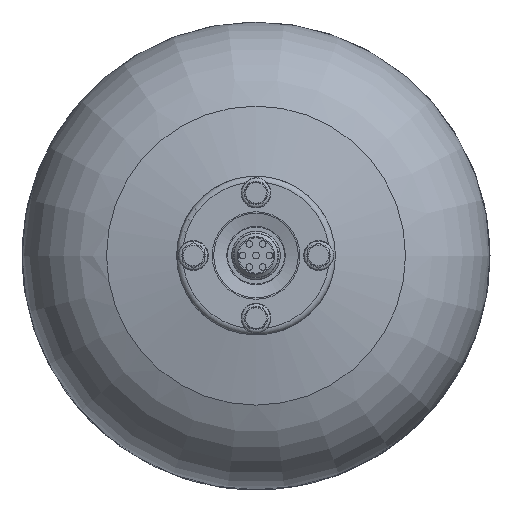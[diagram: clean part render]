
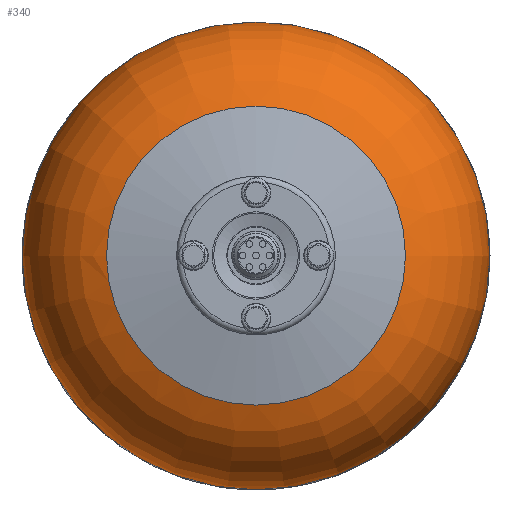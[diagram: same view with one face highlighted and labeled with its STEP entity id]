
A CAD part, top view. The second image highlights one B-rep face of the part: STEP entity #340.
In plain terms, the highlighted toroidal (fillet/blend) face has major radius 70 mm and minor radius 70 mm.
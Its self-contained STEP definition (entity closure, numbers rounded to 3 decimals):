
#340=ADVANCED_FACE('',(#2011,#2013),#2015,.T.);
#2011=FACE_BOUND('',#2012,.T.);
#2012=EDGE_LOOP('',(#4526,#4527));
#2013=FACE_OUTER_BOUND('',#2014,.T.);
#2014=EDGE_LOOP('',(#4528));
#2015=DEGENERATE_TOROIDAL_SURFACE('',#2016,70.,70.,.T.);
#2016=AXIS2_PLACEMENT_3D('',#2017,#2018,#2019);
#2017=CARTESIAN_POINT('',(0.,0.,42.896));
#2018=DIRECTION('',(0.,0.,1.));
#2019=DIRECTION('',(1.,0.,0.));
#4526=ORIENTED_EDGE('',*,*,#6668,.T.);
#4527=ORIENTED_EDGE('',*,*,#6669,.T.);
#4528=ORIENTED_EDGE('',*,*,#6670,.F.);
#6668=EDGE_CURVE('',#7249,#7250,#7251,.T.);
#6669=EDGE_CURVE('',#7250,#7249,#7252,.T.);
#6670=EDGE_CURVE('',#7253,#7253,#7254,.T.);
#7249=VERTEX_POINT('',#8672);
#7250=VERTEX_POINT('',#8673);
#7251=CIRCLE('',#8674,140.);
#7252=CIRCLE('',#8678,140.);
#7253=VERTEX_POINT('',#8682);
#7254=CIRCLE('',#8683,89.6);
#8672=CARTESIAN_POINT('',(0.,140.,42.896));
#8673=CARTESIAN_POINT('',(-140.,0.,42.896));
#8674=AXIS2_PLACEMENT_3D('',#8675,#8676,#8677);
#8675=CARTESIAN_POINT('',(0.,0.,42.896));
#8676=DIRECTION('',(0.,0.,1.));
#8677=DIRECTION('',(0.,1.,0.));
#8678=AXIS2_PLACEMENT_3D('',#8679,#8680,#8681);
#8679=CARTESIAN_POINT('',(0.,0.,42.896));
#8680=DIRECTION('',(0.,0.,1.));
#8681=DIRECTION('',(-1.,0.,0.));
#8682=CARTESIAN_POINT('',(-89.6,0.,110.096));
#8683=AXIS2_PLACEMENT_3D('',#8684,#8685,#8686);
#8684=CARTESIAN_POINT('',(0.,0.,110.096));
#8685=DIRECTION('',(0.,0.,1.));
#8686=DIRECTION('',(-1.,0.,0.));
